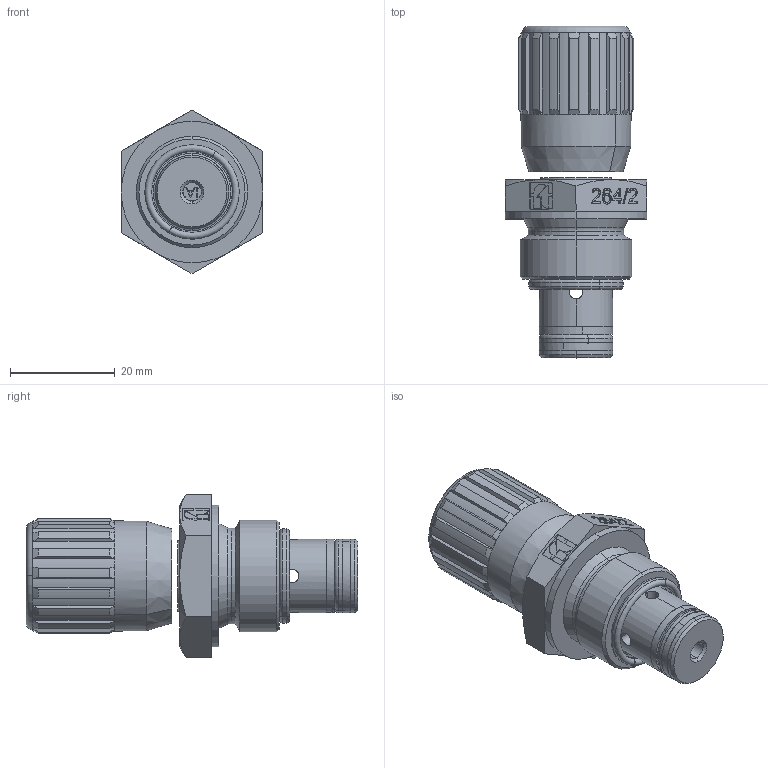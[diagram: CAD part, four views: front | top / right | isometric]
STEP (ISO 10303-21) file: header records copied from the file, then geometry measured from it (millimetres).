
FILE_DESCRIPTION (( 'STEP AP214' ), '1' );
FILE_NAME ('Assieme 264-2-18manopola.STEP', '2014-11-06T21:06:20', ( '' ), ( '' ), 'SwSTEP 2.0', 'SolidWorks 2014', '' );
FILE_SCHEMA (( 'AUTOMOTIVE_DESIGN' ));
Length unit declared in the file: millimetre
Products named in the file (1): Assieme 264-2-18manopola
Bounding box: 27 x 63.3 x 31.18 mm (x, y, z)
Surface area: 6618.9 mm2 (no closed solid volume)
Topology: 0 solids, 9 shells, 492 faces, 1350 edges, 860 vertices
Faces by surface type: plane 263, cylinder 92, cone 63, bspline 58, torus 16
Entity records: 24495 total; most frequent: CARTESIAN_POINT 7131, ORIENTED_EDGE 2494, DIRECTION 2274, EDGE_CURVE 1350, VERTEX_POINT 860, VECTOR 816, LINE 816, AXIS2_PLACEMENT_3D 729
